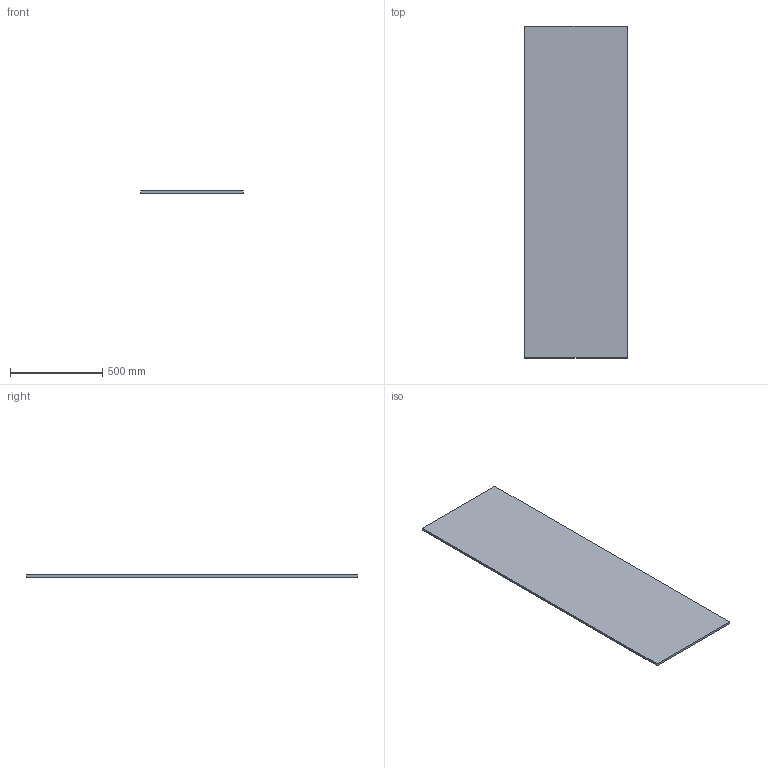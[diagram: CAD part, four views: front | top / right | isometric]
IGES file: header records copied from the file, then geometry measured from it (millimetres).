
Start section:  PTC IGES file: GPF5403700000G000_1.igs  PTC IGES file: gpf5403800000g000_asm.igs  PTC IGES file: GPF5420600000G001_1.igs  PTC IGES file: GPF5403200000G000_1.igs  PTC IGES file: T:\User\Fabio Oggero\Articoli IGS\Rettangolo\Accessori\2 0939_igs.igs  PTC IGES file: gpf5473810000g000_asm.igs  PTC IGES file: GPF6309900000G000_1.igs  PTC IGES file: GPF6301400000G000_1.igs  PTC IGES file: GPF3360700000G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
Global section: file name: \\Archi-NAS\Comune\X GIOVANNI\SCHEDE PRODOTTO\PIANI LAVABO\SURFACE TOP\3D\MOMA DESIGN_PIANI LAVABO_SURFACE TOP.igs; native system: Rhinoceros ( Jan 17 2018 ); preprocessor: Trout Lake IGES 012 Jan 17 2018; date: 230614.083706; units: millimetre
Bounding box: 557.17 x 1800 x 12 mm (x, y, z)
Surface area: 2062083 mm2 (no closed solid volume)
Topology: 0 solids, 0 shells, 6 faces, 24 edges, 24 vertices
Faces by surface type: bspline 6
